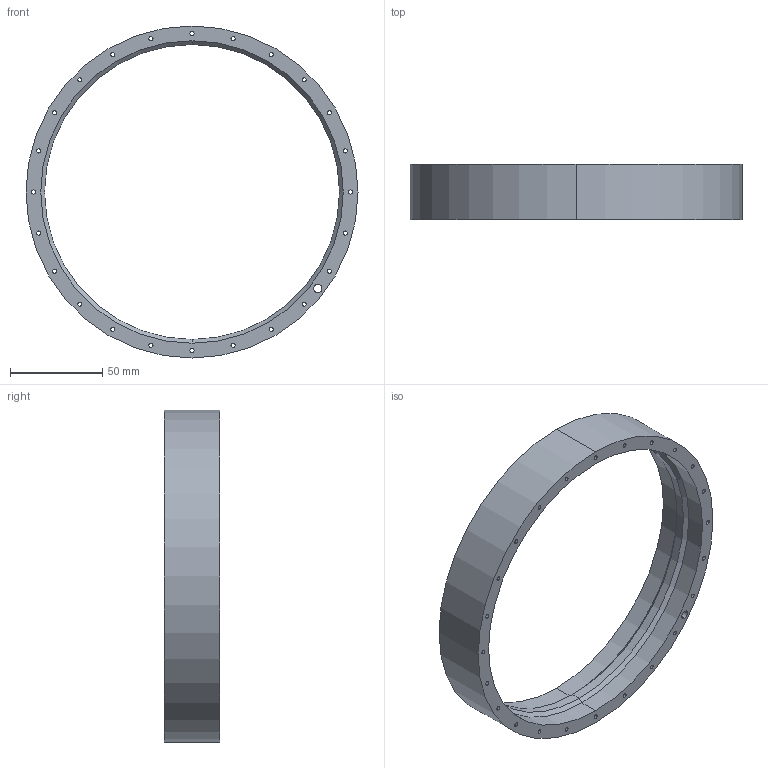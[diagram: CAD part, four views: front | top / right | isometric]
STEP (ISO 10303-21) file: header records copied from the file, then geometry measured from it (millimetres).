
FILE_DESCRIPTION (( 'STEP AP203' ), '1' );
FILE_NAME ('reel-bearing-outer.STEP', '2024-11-26T16:26:19', ( '' ), ( '' ), 'SwSTEP 2.0', 'SolidWorks 2022', '' );
FILE_SCHEMA (( 'CONFIG_CONTROL_DESIGN' ));
Length unit declared in the file: millimetre
Products named in the file (1): reel-bearing-outer
Bounding box: 180 x 30 x 180 mm (x, y, z)
Volume: 133580.4 mm3; surface area: 47154.1 mm2
Topology: 1 solids, 1 shells, 64 faces, 178 edges, 116 vertices
Faces by surface type: cylinder 58, cone 4, plane 2
Entity records: 2295 total; most frequent: DIRECTION 424, CARTESIAN_POINT 359, ORIENTED_EDGE 356, AXIS2_PLACEMENT_3D 181, EDGE_CURVE 178, EDGE_LOOP 116, VERTEX_POINT 116, CIRCLE 116
